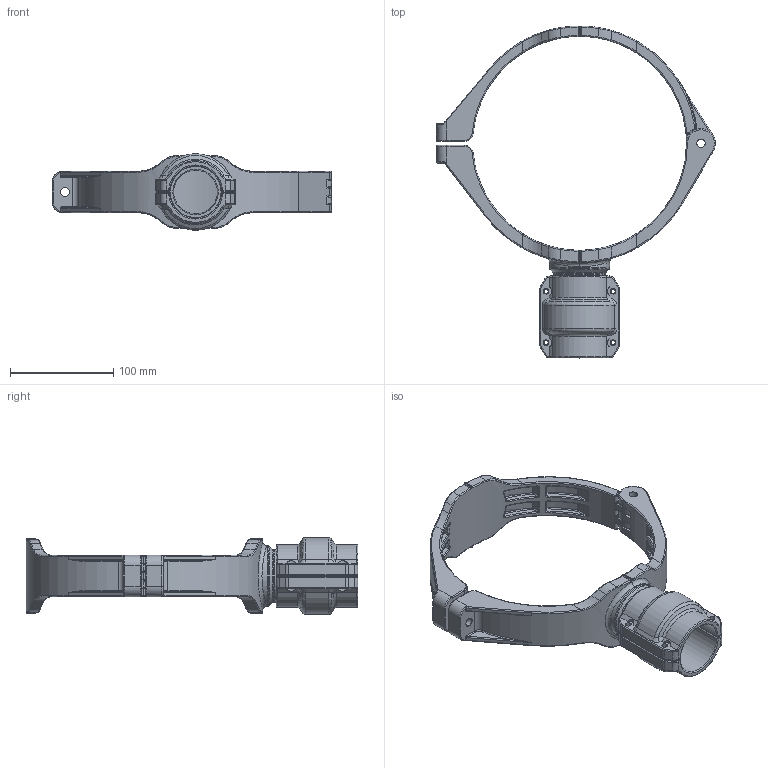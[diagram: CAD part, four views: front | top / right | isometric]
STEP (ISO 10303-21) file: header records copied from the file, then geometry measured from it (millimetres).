
FILE_DESCRIPTION((''),'2;1');
FILE_NAME('2015A51099_ASM_5_ASM','2017-05-15T',('Administrator'),(''),'PRO/ENGINEER BY PARAMETRIC TECHNOLOGY CORPORATION, 2009360','PRO/ENGINEER BY PARAMETRIC TECHNOLOGY CORPORATION, 2009360','');
FILE_SCHEMA(('AUTOMOTIVE_DESIGN_CC2 { 1 2 10303 214 -1 1 5 2 }'));
Length unit declared in the file: millimetre
Products named in the file (8): MANIFOLD_SOLID_BREP_95_8_1; MANIFOLD_SOLID_BREP_96_9_1; 2015A51000_ASM_5_ASM_1_ASM; 2015A51000_ASM_ASM_1_ASM; 201550020001_1; 201550020000_1; 2015500200_ASM_1_ASM; 2015A51099_ASM_5_ASM
Assembly tree (7 placements, depth 4):
  2015A51099_ASM_5_ASM
    2015A51000_ASM_ASM_1_ASM
      2015A51000_ASM_5_ASM_1_ASM
        MANIFOLD_SOLID_BREP_95_8_1
        MANIFOLD_SOLID_BREP_96_9_1
    2015500200_ASM_1_ASM
      201550020001_1
      201550020000_1
Bounding box: 270.71 x 322.01 x 74.3 mm (x, y, z)
Volume: 511034 mm3; surface area: 156691.2 mm2
Topology: 4 solids, 4 shells, 1002 faces, 2419 edges, 1341 vertices
Faces by surface type: cylinder 340, bspline 220, torus 212, plane 146, sphere 72, cone 12
Entity records: 51530 total; most frequent: CARTESIAN_POINT 22779, ORIENTED_EDGE 4634, DIRECTION 4458, PRESENTATION_STYLE_ASSIGNMENT 2321, STYLED_ITEM 2321, CURVE_STYLE 2317, EDGE_CURVE 2317, AXIS2_PLACEMENT_3D 1926
